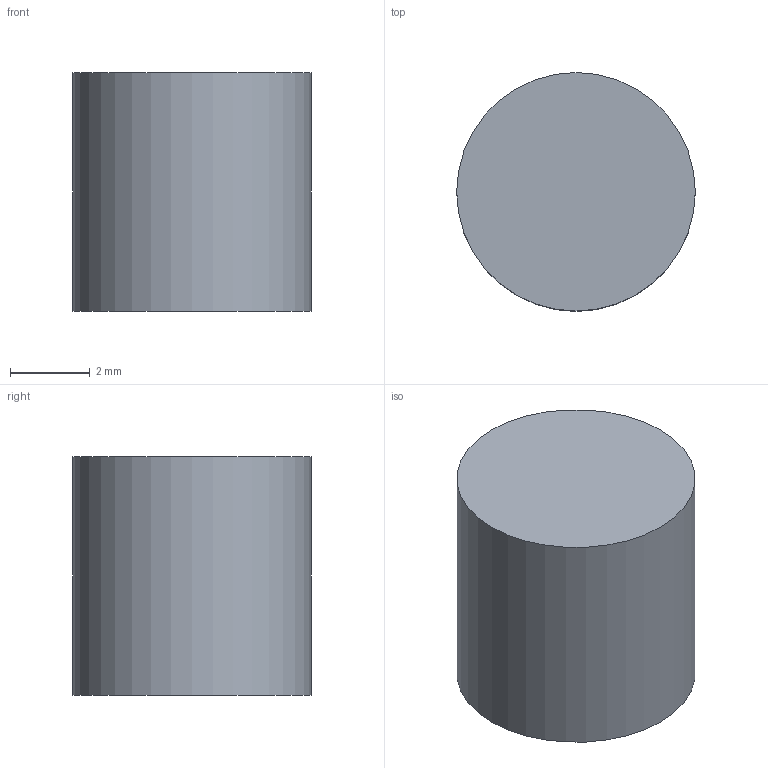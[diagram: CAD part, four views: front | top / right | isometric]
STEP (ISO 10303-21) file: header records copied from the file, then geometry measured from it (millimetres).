
FILE_DESCRIPTION(('Open CASCADE Model'),'2;1');
FILE_NAME('Open CASCADE Shape Model','2026-11-24T19:57:39',('Author'),( 'Open CASCADE'),'Open CASCADE STEP processor 7.8','Open CASCADE 7.8' ,'Unknown');
FILE_SCHEMA(('AUTOMOTIVE_DESIGN { 1 0 10303 214 1 1 1 1 }'));
Length unit declared in the file: millimetre
Products named in the file (1): Open CASCADE STEP translator 7.8 78
Bounding box: 6 x 6 x 6 mm (x, y, z)
Volume: 169.6 mm3; surface area: 169.6 mm2
Topology: 1 solids, 1 shells, 3 faces, 3 edges, 2 vertices
Faces by surface type: plane 2, cylinder 1
Full cylindrical faces by diameter (mm): 6 x1
Entity records: 107 total; most frequent: DIRECTION 18, CARTESIAN_POINT 16, AXIS2_PLACEMENT_3D 6, ORIENTED_EDGE 6, PCURVE 6, DEFINITIONAL_REPRESENTATION 6, CIRCLE 4, LINE 4
